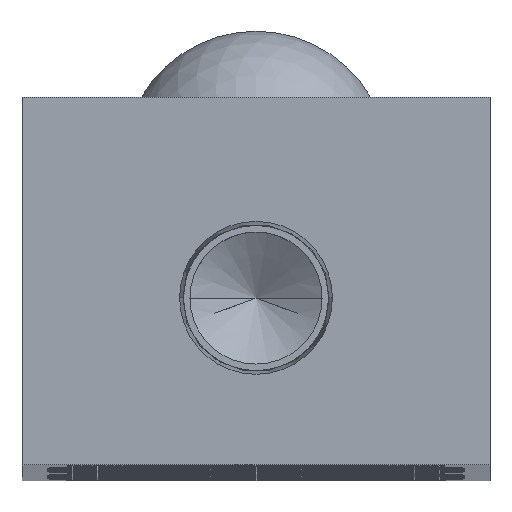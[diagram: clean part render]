
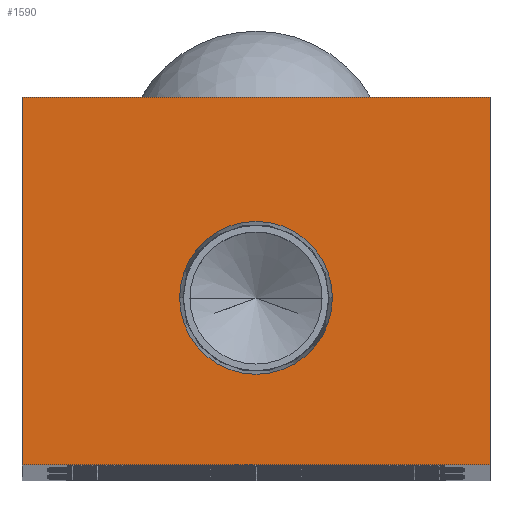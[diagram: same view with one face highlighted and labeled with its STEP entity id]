
A CAD part, top view. The second image highlights one B-rep face of the part: STEP entity #1590.
In plain terms, the highlighted planar face has unit normal (0, 0, 1).
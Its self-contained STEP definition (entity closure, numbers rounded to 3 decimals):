
#177 = EDGE_CURVE ( 'NONE', #2858, #6220, #15729, .T. ) ;
#849 = VERTEX_POINT ( 'NONE', #11309 ) ;
#1147 = CARTESIAN_POINT ( 'NONE',  ( 0., 10., 0. ) ) ;
#1468 = VECTOR ( 'NONE', #15318, 1000. ) ;
#1590 = ADVANCED_FACE ( 'NONE', ( #14651, #14244 ), #6736, .F. ) ;
#2084 = EDGE_CURVE ( 'NONE', #13763, #12796, #10391, .T. ) ;
#2410 = DIRECTION ( 'NONE',  ( -1., 0., 0. ) ) ;
#2421 = DIRECTION ( 'NONE',  ( 1., 0., 0. ) ) ;
#2858 = VERTEX_POINT ( 'NONE', #16407 ) ;
#2956 = DIRECTION ( 'NONE',  ( 0., 0., -1. ) ) ;
#2957 = AXIS2_PLACEMENT_3D ( 'NONE', #1147, #10114, #2421 ) ;
#3321 = ORIENTED_EDGE ( 'NONE', *, *, #4912, .F. ) ;
#3441 = DIRECTION ( 'NONE',  ( 0., 0., 1. ) ) ;
#3637 = EDGE_LOOP ( 'NONE', ( #15998, #3321 ) ) ;
#3703 = DIRECTION ( 'NONE',  ( 1., 0., 0. ) ) ;
#4090 = EDGE_CURVE ( 'NONE', #849, #2858, #6048, .T. ) ;
#4243 = CARTESIAN_POINT ( 'NONE',  ( -14., 0., 0. ) ) ;
#4600 = AXIS2_PLACEMENT_3D ( 'NONE', #8036, #2956, #11939 ) ;
#4912 = EDGE_CURVE ( 'NONE', #12796, #13763, #14501, .T. ) ;
#5405 = EDGE_LOOP ( 'NONE', ( #14815, #11097, #15640, #5549 ) ) ;
#5549 = ORIENTED_EDGE ( 'NONE', *, *, #4090, .T. ) ;
#5552 = CARTESIAN_POINT ( 'NONE',  ( 14., 0., 0. ) ) ;
#6048 = LINE ( 'NONE', #6249, #12513 ) ;
#6052 = LINE ( 'NONE', #16592, #1468 ) ;
#6071 = VERTEX_POINT ( 'NONE', #5552 ) ;
#6220 = VERTEX_POINT ( 'NONE', #9227 ) ;
#6249 = CARTESIAN_POINT ( 'NONE',  ( -14., 22., 0. ) ) ;
#6525 = AXIS2_PLACEMENT_3D ( 'NONE', #11150, #3441, #12437 ) ;
#6736 = PLANE ( 'NONE',  #4600 ) ;
#7767 = CARTESIAN_POINT ( 'NONE',  ( 4.574, 10., 0. ) ) ;
#8036 = CARTESIAN_POINT ( 'NONE',  ( 0., 0., 0. ) ) ;
#9227 = CARTESIAN_POINT ( 'NONE',  ( -14., 0., 0. ) ) ;
#10114 = DIRECTION ( 'NONE',  ( 0., 0., 1. ) ) ;
#10361 = LINE ( 'NONE', #12700, #13416 ) ;
#10391 = CIRCLE ( 'NONE', #6525, 4.574 ) ;
#10710 = CARTESIAN_POINT ( 'NONE',  ( -4.574, 10., 0. ) ) ;
#11097 = ORIENTED_EDGE ( 'NONE', *, *, #12384, .T. ) ;
#11150 = CARTESIAN_POINT ( 'NONE',  ( 0., 10., 0. ) ) ;
#11309 = CARTESIAN_POINT ( 'NONE',  ( 14., 22., 0. ) ) ;
#11939 = DIRECTION ( 'NONE',  ( -1., 0., 0. ) ) ;
#12384 = EDGE_CURVE ( 'NONE', #6220, #6071, #10361, .T. ) ;
#12437 = DIRECTION ( 'NONE',  ( 1., 0., 0. ) ) ;
#12513 = VECTOR ( 'NONE', #2410, 1000. ) ;
#12700 = CARTESIAN_POINT ( 'NONE',  ( -14., 0., 0. ) ) ;
#12796 = VERTEX_POINT ( 'NONE', #10710 ) ;
#13416 = VECTOR ( 'NONE', #3703, 1000. ) ;
#13763 = VERTEX_POINT ( 'NONE', #7767 ) ;
#14244 = FACE_OUTER_BOUND ( 'NONE', #5405, .T. ) ;
#14333 = EDGE_CURVE ( 'NONE', #6071, #849, #6052, .T. ) ;
#14501 = CIRCLE ( 'NONE', #2957, 4.574 ) ;
#14538 = VECTOR ( 'NONE', #15646, 1000. ) ;
#14651 = FACE_BOUND ( 'NONE', #3637, .T. ) ;
#14815 = ORIENTED_EDGE ( 'NONE', *, *, #177, .T. ) ;
#15318 = DIRECTION ( 'NONE',  ( 0., 1., 0. ) ) ;
#15640 = ORIENTED_EDGE ( 'NONE', *, *, #14333, .T. ) ;
#15646 = DIRECTION ( 'NONE',  ( 0., -1., 0. ) ) ;
#15729 = LINE ( 'NONE', #4243, #14538 ) ;
#15998 = ORIENTED_EDGE ( 'NONE', *, *, #2084, .F. ) ;
#16407 = CARTESIAN_POINT ( 'NONE',  ( -14., 22., 0. ) ) ;
#16592 = CARTESIAN_POINT ( 'NONE',  ( 14., 0., 0. ) ) ;
